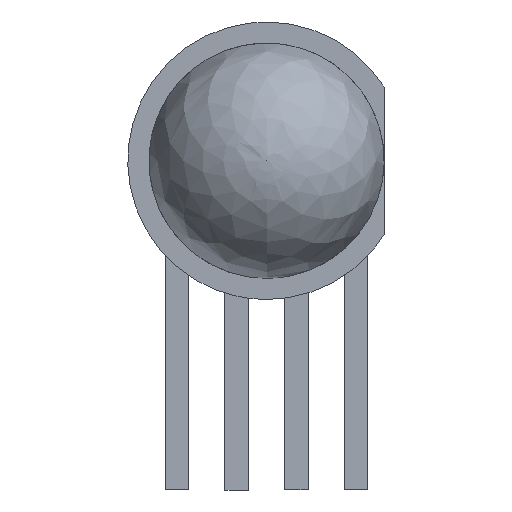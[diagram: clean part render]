
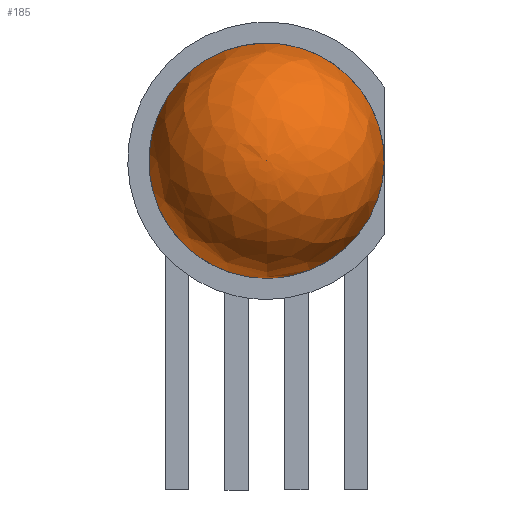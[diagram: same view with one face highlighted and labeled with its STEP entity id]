
A CAD part, front view. The second image highlights one B-rep face of the part: STEP entity #185.
In plain terms, the highlighted free-form (B-spline) face has degree [2, 2] with [9, 5] control points.
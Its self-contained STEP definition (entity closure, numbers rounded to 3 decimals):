
#25=(
BOUNDED_SURFACE()
B_SPLINE_SURFACE(2,2,((#4703,#4704,#4705,#4706,#4707),(#4708,#4709,#4710,
#4711,#4712),(#4713,#4714,#4715,#4716,#4717),(#4718,#4719,#4720,#4721,#4722),
(#4723,#4724,#4725,#4726,#4727),(#4728,#4729,#4730,#4731,#4732),(#4733,
#4734,#4735,#4736,#4737),(#4738,#4739,#4740,#4741,#4742),(#4743,#4744,#4745,
#4746,#4747)),.UNSPECIFIED.,.T.,.F.,.F.)
B_SPLINE_SURFACE_WITH_KNOTS((3,2,2,2,3),(3,2,3),(0.,3.927,7.854,
11.781,15.708),(-3.927,0.,3.927),
 .UNSPECIFIED.)
GEOMETRIC_REPRESENTATION_ITEM()
RATIONAL_B_SPLINE_SURFACE(((1.,0.707,1.,0.707,1.),
(0.707,0.5,0.707,0.5,0.707),(1.,0.707,
1.,0.707,1.),(0.707,0.5,0.707,0.5,0.707),
(1.,0.707,1.,0.707,1.),(0.707,0.5,0.707,
0.5,0.707),(1.,0.707,1.,0.707,1.),(0.707,
0.5,0.707,0.5,0.707),(1.,0.707,1.,0.707,
1.)))
REPRESENTATION_ITEM('')
SURFACE()
);
#34=(
BOUNDED_CURVE()
B_SPLINE_CURVE(2,(#4786,#4787,#4788),.UNSPECIFIED.,.F.,.F.)
B_SPLINE_CURVE_WITH_KNOTS((3,3),(0.,3.927),.UNSPECIFIED.)
CURVE()
GEOMETRIC_REPRESENTATION_ITEM()
RATIONAL_B_SPLINE_CURVE((1.,0.707,1.))
REPRESENTATION_ITEM('')
);
#42=(
BOUNDED_CURVE()
B_SPLINE_CURVE(2,(#4825,#4826,#4827,#4828,#4829,#4830,#4831,#4832,#4833,
#4834,#4835),.UNSPECIFIED.,.T.,.F.)
B_SPLINE_CURVE_WITH_KNOTS((3,2,2,2,2,3),(-15.708,-12.763,
-9.817,-6.872,-3.927,0.),.UNSPECIFIED.)
CURVE()
GEOMETRIC_REPRESENTATION_ITEM()
RATIONAL_B_SPLINE_CURVE((1.,0.831,1.,0.831,1.,0.831,
1.,0.831,1.,0.707,1.))
REPRESENTATION_ITEM('')
);
#185=ADVANCED_FACE('',(#265),#25,.T.);
#265=FACE_OUTER_BOUND('',#349,.T.);
#349=EDGE_LOOP('',(#711,#712,#713));
#711=ORIENTED_EDGE('',*,*,#924,.T.);
#712=ORIENTED_EDGE('',*,*,#924,.F.);
#713=ORIENTED_EDGE('',*,*,#935,.F.);
#924=EDGE_CURVE('',#1239,#1238,#34,.T.);
#935=EDGE_CURVE('',#1239,#1239,#42,.T.);
#1238=VERTEX_POINT('',#4754);
#1239=VERTEX_POINT('',#4755);
#4703=CARTESIAN_POINT('',(10.,-5.6,4.));
#4704=CARTESIAN_POINT('',(10.,-5.6,1.5));
#4705=CARTESIAN_POINT('',(10.,-8.1,1.5));
#4706=CARTESIAN_POINT('',(10.,-10.6,1.5));
#4707=CARTESIAN_POINT('',(10.,-10.6,4.));
#4708=CARTESIAN_POINT('',(10.,-5.6,4.));
#4709=CARTESIAN_POINT('',(12.5,-5.6,1.5));
#4710=CARTESIAN_POINT('',(12.5,-8.1,1.5));
#4711=CARTESIAN_POINT('',(12.5,-10.6,1.5));
#4712=CARTESIAN_POINT('',(10.,-10.6,4.));
#4713=CARTESIAN_POINT('',(10.,-5.6,4.));
#4714=CARTESIAN_POINT('',(12.5,-5.6,4.));
#4715=CARTESIAN_POINT('',(12.5,-8.1,4.));
#4716=CARTESIAN_POINT('',(12.5,-10.6,4.));
#4717=CARTESIAN_POINT('',(10.,-10.6,4.));
#4718=CARTESIAN_POINT('',(10.,-5.6,4.));
#4719=CARTESIAN_POINT('',(12.5,-5.6,6.5));
#4720=CARTESIAN_POINT('',(12.5,-8.1,6.5));
#4721=CARTESIAN_POINT('',(12.5,-10.6,6.5));
#4722=CARTESIAN_POINT('',(10.,-10.6,4.));
#4723=CARTESIAN_POINT('',(10.,-5.6,4.));
#4724=CARTESIAN_POINT('',(10.,-5.6,6.5));
#4725=CARTESIAN_POINT('',(10.,-8.1,6.5));
#4726=CARTESIAN_POINT('',(10.,-10.6,6.5));
#4727=CARTESIAN_POINT('',(10.,-10.6,4.));
#4728=CARTESIAN_POINT('',(10.,-5.6,4.));
#4729=CARTESIAN_POINT('',(7.5,-5.6,6.5));
#4730=CARTESIAN_POINT('',(7.5,-8.1,6.5));
#4731=CARTESIAN_POINT('',(7.5,-10.6,6.5));
#4732=CARTESIAN_POINT('',(10.,-10.6,4.));
#4733=CARTESIAN_POINT('',(10.,-5.6,4.));
#4734=CARTESIAN_POINT('',(7.5,-5.6,4.));
#4735=CARTESIAN_POINT('',(7.5,-8.1,4.));
#4736=CARTESIAN_POINT('',(7.5,-10.6,4.));
#4737=CARTESIAN_POINT('',(10.,-10.6,4.));
#4738=CARTESIAN_POINT('',(10.,-5.6,4.));
#4739=CARTESIAN_POINT('',(7.5,-5.6,1.5));
#4740=CARTESIAN_POINT('',(7.5,-8.1,1.5));
#4741=CARTESIAN_POINT('',(7.5,-10.6,1.5));
#4742=CARTESIAN_POINT('',(10.,-10.6,4.));
#4743=CARTESIAN_POINT('',(10.,-5.6,4.));
#4744=CARTESIAN_POINT('',(10.,-5.6,1.5));
#4745=CARTESIAN_POINT('',(10.,-8.1,1.5));
#4746=CARTESIAN_POINT('',(10.,-10.6,1.5));
#4747=CARTESIAN_POINT('',(10.,-10.6,4.));
#4754=CARTESIAN_POINT('',(10.,-10.6,4.));
#4755=CARTESIAN_POINT('',(10.,-8.1,1.5));
#4786=CARTESIAN_POINT('',(10.,-8.1,1.5));
#4787=CARTESIAN_POINT('',(10.,-10.6,1.5));
#4788=CARTESIAN_POINT('',(10.,-10.6,4.));
#4825=CARTESIAN_POINT('',(10.,-8.1,1.5));
#4826=CARTESIAN_POINT('',(8.33,-8.1,1.5));
#4827=CARTESIAN_POINT('',(7.69,-8.1,3.043));
#4828=CARTESIAN_POINT('',(7.051,-8.1,4.587));
#4829=CARTESIAN_POINT('',(8.232,-8.1,5.768));
#4830=CARTESIAN_POINT('',(9.413,-8.1,6.949));
#4831=CARTESIAN_POINT('',(10.957,-8.1,6.31));
#4832=CARTESIAN_POINT('',(12.5,-8.1,5.67));
#4833=CARTESIAN_POINT('',(12.5,-8.1,4.));
#4834=CARTESIAN_POINT('',(12.5,-8.1,1.5));
#4835=CARTESIAN_POINT('',(10.,-8.1,1.5));
